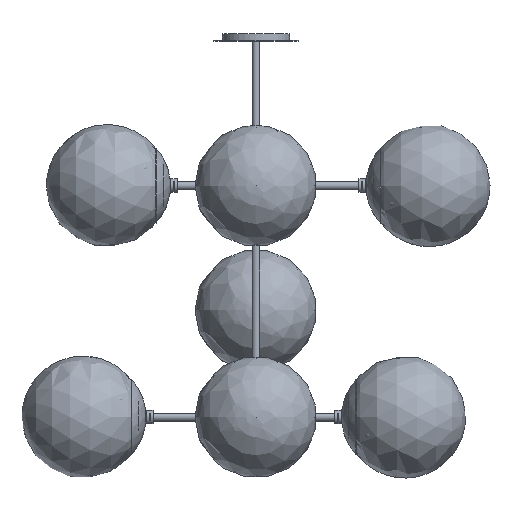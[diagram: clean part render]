
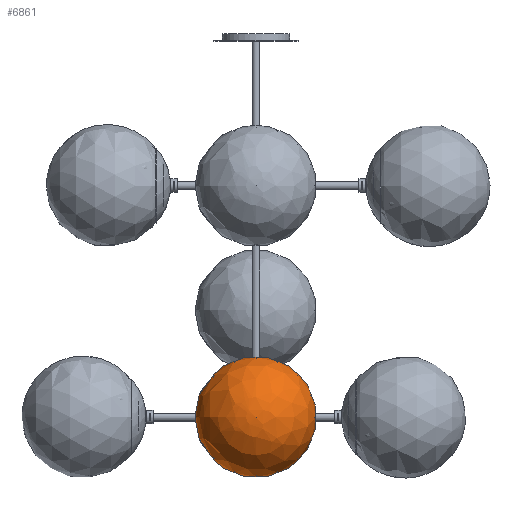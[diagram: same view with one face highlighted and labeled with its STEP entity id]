
A CAD part, front view. The second image highlights one B-rep face of the part: STEP entity #6861.
In plain terms, the highlighted free-form (B-spline) face has degree [2, 2] with [5, 9] control points.
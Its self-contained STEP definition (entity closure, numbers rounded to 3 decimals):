
#23=(
BOUNDED_SURFACE()
B_SPLINE_SURFACE(2,2,((#12537,#12538,#12539,#12540,#12541,#12542,#12543,
#12544,#12545),(#12546,#12547,#12548,#12549,#12550,#12551,#12552,#12553,
#12554),(#12555,#12556,#12557,#12558,#12559,#12560,#12561,#12562,#12563),
(#12564,#12565,#12566,#12567,#12568,#12569,#12570,#12571,#12572),(#12573,
#12574,#12575,#12576,#12577,#12578,#12579,#12580,#12581)),.UNSPECIFIED.,
 .F.,.T.,.F.)
B_SPLINE_SURFACE_WITH_KNOTS((3,2,3),(3,2,2,2,3),(-1.156,0.208,
1.572),(-3.142,-1.571,0.,1.571,
3.142),.UNSPECIFIED.)
GEOMETRIC_REPRESENTATION_ITEM()
RATIONAL_B_SPLINE_SURFACE(((1.,0.707,1.,0.707,1.,
0.707,1.,0.707,1.),(0.776,0.549,
0.776,0.549,0.776,0.549,
0.776,0.549,0.776),(1.,0.707,
1.,0.707,1.,0.707,1.,0.707,1.),(0.776,
0.549,0.776,0.549,0.776,
0.549,0.776,0.549,0.776),
(1.,0.707,1.,0.707,1.,0.707,1.,0.707,
1.)))
REPRESENTATION_ITEM('')
SURFACE()
);
#1520=FACE_OUTER_BOUND('',#2123,.T.);
#2123=EDGE_LOOP('',(#5608,#5609,#5610));
#2747=CIRCLE('',#7833,40.391);
#2749=CIRCLE('',#7835,100.);
#3339=VERTEX_POINT('',#12534);
#3340=VERTEX_POINT('',#12582);
#4134=EDGE_CURVE('',#3339,#3339,#2747,.T.);
#4136=EDGE_CURVE('',#3340,#3339,#2749,.T.);
#5608=ORIENTED_EDGE('',*,*,#4136,.T.);
#5609=ORIENTED_EDGE('',*,*,#4134,.T.);
#5610=ORIENTED_EDGE('',*,*,#4136,.F.);
#6861=ADVANCED_FACE('',(#1520),#23,.F.);
#7833=AXIS2_PLACEMENT_3D('',#12535,#9806,#9807);
#7835=AXIS2_PLACEMENT_3D('',#12583,#9810,#9811);
#9806=DIRECTION('center_axis',(0.,-1.,0.));
#9807=DIRECTION('ref_axis',(0.,0.,1.));
#9810=DIRECTION('center_axis',(0.,0.,
-1.));
#9811=DIRECTION('ref_axis',(-1.,0.,0.));
#12534=CARTESIAN_POINT('',(-40.391,-152.327,100.111));
#12535=CARTESIAN_POINT('Origin',(0.,-152.327,100.111));
#12537=CARTESIAN_POINT('Ctrl Pts',(-40.391,-152.327,100.111));
#12538=CARTESIAN_POINT('Ctrl Pts',(-40.391,-152.327,59.719));
#12539=CARTESIAN_POINT('Ctrl Pts',(0.,-152.327,59.719));
#12540=CARTESIAN_POINT('Ctrl Pts',(40.391,-152.327,59.719));
#12541=CARTESIAN_POINT('Ctrl Pts',(40.391,-152.327,100.111));
#12542=CARTESIAN_POINT('Ctrl Pts',(40.391,-152.327,140.502));
#12543=CARTESIAN_POINT('Ctrl Pts',(0.,-152.327,140.502));
#12544=CARTESIAN_POINT('Ctrl Pts',(-40.391,-152.327,140.502));
#12545=CARTESIAN_POINT('Ctrl Pts',(-40.391,-152.327,100.111));
#12546=CARTESIAN_POINT('Ctrl Pts',(-114.715,-185.036,
100.111));
#12547=CARTESIAN_POINT('Ctrl Pts',(-114.715,-185.036,
-14.604));
#12548=CARTESIAN_POINT('Ctrl Pts',(0.,-185.036,
-14.604));
#12549=CARTESIAN_POINT('Ctrl Pts',(114.715,-185.036,-14.604));
#12550=CARTESIAN_POINT('Ctrl Pts',(114.715,-185.036,100.111));
#12551=CARTESIAN_POINT('Ctrl Pts',(114.715,-185.036,214.825));
#12552=CARTESIAN_POINT('Ctrl Pts',(0.,-185.036,
214.825));
#12553=CARTESIAN_POINT('Ctrl Pts',(-114.715,-185.036,
214.825));
#12554=CARTESIAN_POINT('Ctrl Pts',(-114.715,-185.036,
100.111));
#12555=CARTESIAN_POINT('Ctrl Pts',(-97.959,-264.491,100.111));
#12556=CARTESIAN_POINT('Ctrl Pts',(-97.959,-264.491,
2.152));
#12557=CARTESIAN_POINT('Ctrl Pts',(0.,-264.491,
2.152));
#12558=CARTESIAN_POINT('Ctrl Pts',(97.959,-264.491,2.152));
#12559=CARTESIAN_POINT('Ctrl Pts',(97.959,-264.491,100.111));
#12560=CARTESIAN_POINT('Ctrl Pts',(97.959,-264.491,198.069));
#12561=CARTESIAN_POINT('Ctrl Pts',(0.,-264.491,
198.069));
#12562=CARTESIAN_POINT('Ctrl Pts',(-97.959,-264.491,
198.069));
#12563=CARTESIAN_POINT('Ctrl Pts',(-97.959,-264.491,100.111));
#12564=CARTESIAN_POINT('Ctrl Pts',(-81.202,-343.945,
100.111));
#12565=CARTESIAN_POINT('Ctrl Pts',(-81.202,-343.945,
18.908));
#12566=CARTESIAN_POINT('Ctrl Pts',(0.,-343.945,
18.908));
#12567=CARTESIAN_POINT('Ctrl Pts',(81.202,-343.945,18.908));
#12568=CARTESIAN_POINT('Ctrl Pts',(81.202,-343.945,100.111));
#12569=CARTESIAN_POINT('Ctrl Pts',(81.202,-343.945,181.313));
#12570=CARTESIAN_POINT('Ctrl Pts',(0.,-343.945,
181.313));
#12571=CARTESIAN_POINT('Ctrl Pts',(-81.202,-343.945,
181.313));
#12572=CARTESIAN_POINT('Ctrl Pts',(-81.202,-343.945,
100.111));
#12573=CARTESIAN_POINT('Ctrl Pts',(0.,-343.855,
100.111));
#12574=CARTESIAN_POINT('Ctrl Pts',(0.,-343.855,
100.111));
#12575=CARTESIAN_POINT('Ctrl Pts',(0.,-343.855,
100.111));
#12576=CARTESIAN_POINT('Ctrl Pts',(0.,-343.855,
100.111));
#12577=CARTESIAN_POINT('Ctrl Pts',(0.,-343.855,
100.111));
#12578=CARTESIAN_POINT('Ctrl Pts',(0.,-343.855,
100.111));
#12579=CARTESIAN_POINT('Ctrl Pts',(0.,-343.855,
100.111));
#12580=CARTESIAN_POINT('Ctrl Pts',(0.,-343.855,
100.111));
#12581=CARTESIAN_POINT('Ctrl Pts',(0.,-343.855,
100.111));
#12582=CARTESIAN_POINT('',(0.,-343.855,100.111));
#12583=CARTESIAN_POINT('Origin',(-0.111,-243.856,100.111));
